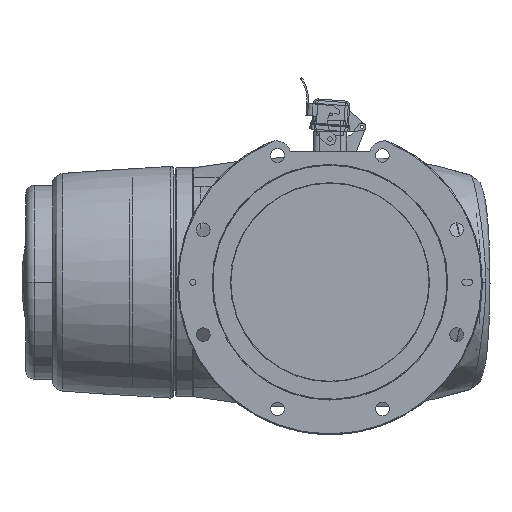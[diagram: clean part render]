
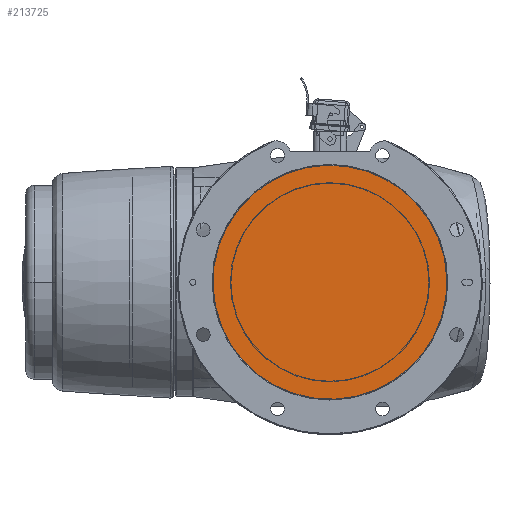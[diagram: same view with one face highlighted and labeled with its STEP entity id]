
A CAD part, front view. The second image highlights one B-rep face of the part: STEP entity #213725.
In plain terms, the highlighted planar face has unit normal (0, -1, 0).
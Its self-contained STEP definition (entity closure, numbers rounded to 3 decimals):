
#9688 = CARTESIAN_POINT ( 'NONE',  ( 0., 1., 0. ) ) ;
#13306 = DIRECTION ( 'NONE',  ( 0., 1., 0. ) ) ;
#37551 = CARTESIAN_POINT ( 'NONE',  ( 29.371, 1., -70.908 ) ) ;
#56764 = CARTESIAN_POINT ( 'NONE',  ( 0., 1., 0. ) ) ;
#76306 = ORIENTED_EDGE ( 'NONE', *, *, #99341, .F. ) ;
#80671 = AXIS2_PLACEMENT_3D ( 'NONE', #188480, #13306, #91322 ) ;
#86630 = VERTEX_POINT ( 'NONE', #99185 ) ;
#87707 = DIRECTION ( 'NONE',  ( 0., 1., 0. ) ) ;
#91322 = DIRECTION ( 'NONE',  ( 0.383, 0., -0.924 ) ) ;
#99185 = CARTESIAN_POINT ( 'NONE',  ( -29.371, 1., 70.908 ) ) ;
#99341 = EDGE_CURVE ( 'NONE', #161526, #86630, #190916, .T. ) ;
#106885 = FACE_OUTER_BOUND ( 'NONE', #130002, .T. ) ;
#130002 = EDGE_LOOP ( 'NONE', ( #202783, #76306 ) ) ;
#134748 = DIRECTION ( 'NONE',  ( 0., 1., 0. ) ) ;
#161526 = VERTEX_POINT ( 'NONE', #37551 ) ;
#165701 = DIRECTION ( 'NONE',  ( 0.383, 0., -0.924 ) ) ;
#171527 = EDGE_CURVE ( 'NONE', #86630, #161526, #215074, .T. ) ;
#182924 = AXIS2_PLACEMENT_3D ( 'NONE', #9688, #87707, #165701 ) ;
#184866 = PLANE ( 'NONE',  #182924 ) ;
#188480 = CARTESIAN_POINT ( 'NONE',  ( 0., 1., 0. ) ) ;
#190916 = CIRCLE ( 'NONE', #80671, 76.75 ) ;
#202783 = ORIENTED_EDGE ( 'NONE', *, *, #171527, .F. ) ;
#212731 = DIRECTION ( 'NONE',  ( 0.383, 0., -0.924 ) ) ;
#213725 = ADVANCED_FACE ( 'NONE', ( #106885 ), #184866, .F. ) ;
#215074 = CIRCLE ( 'NONE', #247752, 76.75 ) ;
#247752 = AXIS2_PLACEMENT_3D ( 'NONE', #56764, #134748, #212731 ) ;
